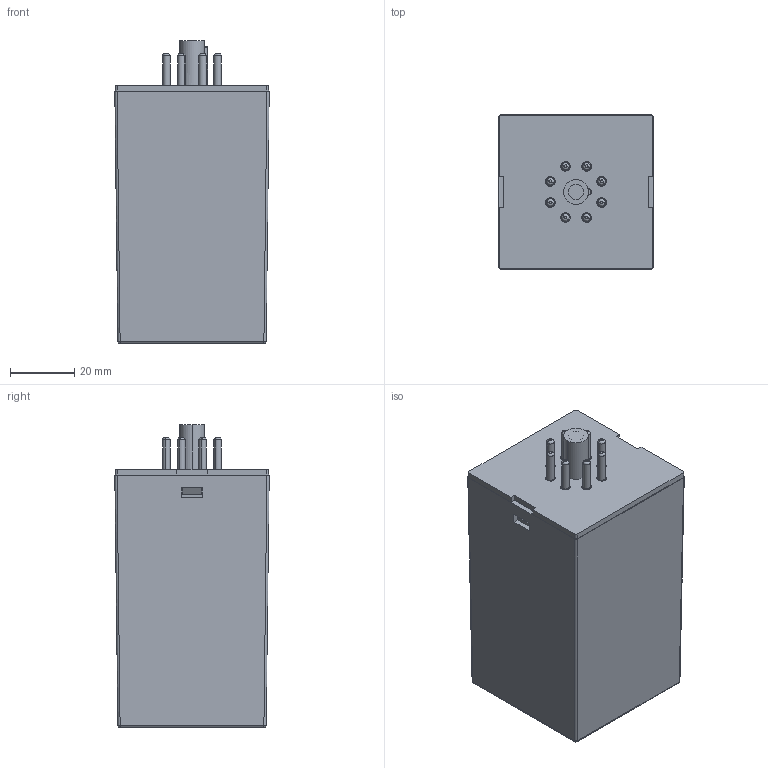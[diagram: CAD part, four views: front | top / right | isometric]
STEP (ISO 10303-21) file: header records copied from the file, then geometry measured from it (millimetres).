
FILE_DESCRIPTION (( 'STEP AP214' ), '1' );
FILE_NAME ('Conjunt PP50.STEP', '2018-07-02T09:03:35', ( 'aaa' ), ( '' ), 'SwSTEP 2.0', 'SolidWorks 2013', '' );
FILE_SCHEMA (( 'AUTOMOTIVE_DESIGN' ));
Length unit declared in the file: millimetre
Products named in the file (5): Tapa amb conectors PP50; Conector PP50; Tapa sense conectors PP50; Caixa PP50; Conjunt PP50
Assembly tree (11 placements, depth 3):
  Conjunt PP50
    Caixa PP50
    Tapa amb conectors PP50
      Tapa sense conectors PP50
      Conector PP50  x8
Bounding box: 48.2 x 48.2 x 94.6 mm (x, y, z)
Volume: 36029.8 mm3; surface area: 44079.7 mm2
Topology: 10 solids, 10 shells, 328 faces, 796 edges, 519 vertices
Faces by surface type: cylinder 150, plane 148, torus 18, sphere 12
Entity records: 7603 total; most frequent: CARTESIAN_POINT 1460, DIRECTION 1245, ORIENTED_EDGE 1236, EDGE_CURVE 618, AXIS2_PLACEMENT_3D 426, VERTEX_POINT 405, VECTOR 393, LINE 393
